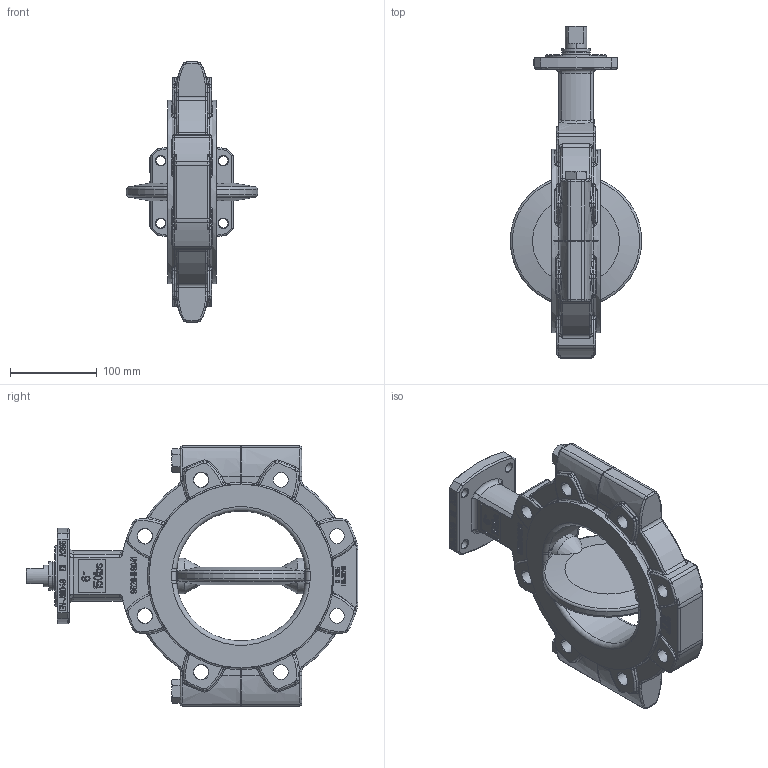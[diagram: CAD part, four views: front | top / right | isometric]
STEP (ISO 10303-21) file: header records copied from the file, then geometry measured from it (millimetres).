
FILE_DESCRIPTION((''),'2;1');
FILE_NAME('9520-00-5103_A_SW0002','2013-09-18T',('smarkstein'),(''),'PRO/ENGINEER BY PARAMETRIC TECHNOLOGY CORPORATION, 2011040','PRO/ENGINEER BY PARAMETRIC TECHNOLOGY CORPORATION, 2011040','');
FILE_SCHEMA(('CONFIG_CONTROL_DESIGN'));
Products named in the file (1): 9520-00-5103_A_SW0002
Bounding box: 151.31 x 383 x 300 mm (x, y, z)
Volume: 2395330.7 mm3; surface area: 337363.7 mm2
Topology: 1 solids, 1 shells, 3325 faces, 9027 edges, 5821 vertices
Faces by surface type: plane 2490, bspline 260, cylinder 251, torus 214, cone 74, extrusion 32, sphere 2, revolution 2
Entity records: 115166 total; most frequent: CARTESIAN_POINT 32844, ORIENTED_EDGE 18050, DIRECTION 15541, EDGE_CURVE 9025, VECTOR 7261, LINE 7229, VERTEX_POINT 5821, AXIS2_PLACEMENT_3D 4139
